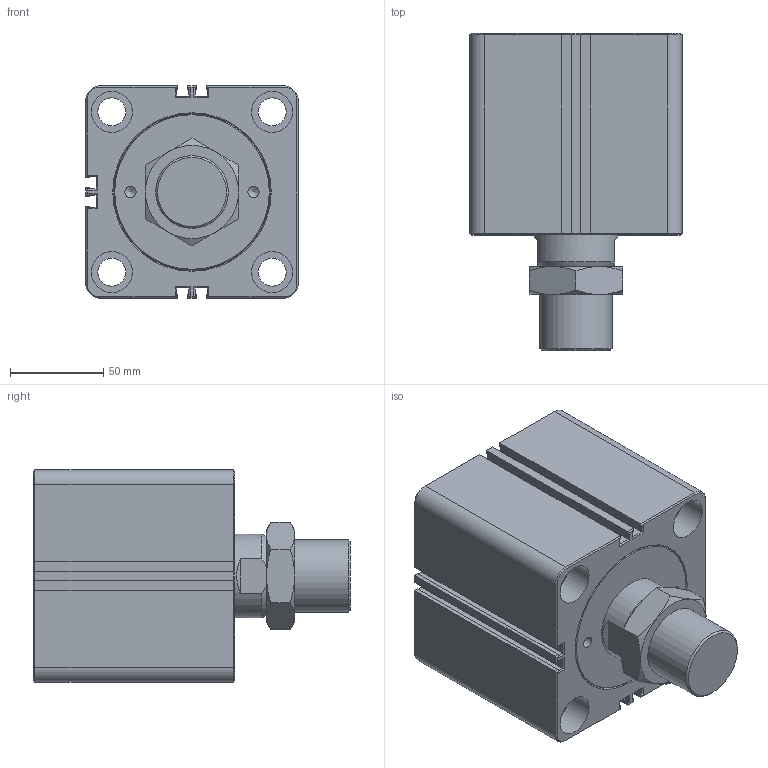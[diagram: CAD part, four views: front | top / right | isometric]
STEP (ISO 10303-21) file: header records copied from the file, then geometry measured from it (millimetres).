
FILE_DESCRIPTION(/* description */ (''),/* implementation_level */ '2;1');
FILE_NAME(/* name */ 'HTM70-SDMB80X30W',/* time_stamp */ '2019-06-05T16:23:46+08:00',/* author */ ('JEFF HUANG'),/* organization */ ('TAIWAN AMAC CLAMP INDUSTRIAL CO., LTD.'),/* preprocessor_version */ 'ST-DEVELOPER v16.7',/* originating_system */ 'DEX',/* authorisation */ $);
FILE_SCHEMA (('AUTOMOTIVE_DESIGN {1 0 10303 214 3 1 1}'));
Length unit declared in the file: millimetre
Products named in the file (1): HTM70-SDMB80X30W
Bounding box: 114 x 170 x 114 mm (x, y, z)
Volume: 1363572.8 mm3; surface area: 116016.9 mm2
Topology: 1 solids, 1 shells, 301 faces, 676 edges, 397 vertices
Faces by surface type: plane 188, cone 50, bspline 36, cylinder 27
Full cylindrical faces by diameter (mm): 6 x1, 6.1 x2, 7 x2, 15 x6, 16.5 x2, 22 x8, 39 x1, 45 x1
Entity records: 10353 total; most frequent: CARTESIAN_POINT 2044, ORIENTED_EDGE 1248, DIRECTION 1172, EDGE_CURVE 624, LINE 408, VECTOR 408, VERTEX_POINT 382, AXIS2_PLACEMENT_3D 382
